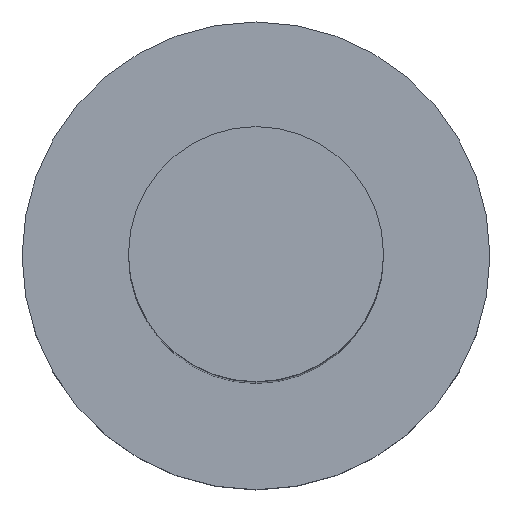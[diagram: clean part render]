
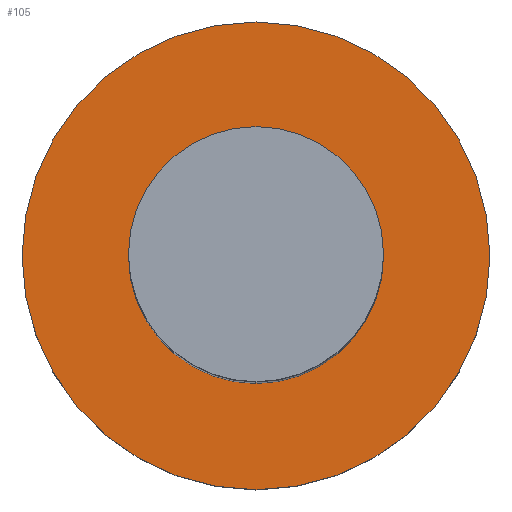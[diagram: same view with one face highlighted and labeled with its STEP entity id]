
A CAD part, top view. The second image highlights one B-rep face of the part: STEP entity #105.
In plain terms, the highlighted planar face has unit normal (0, 0, 1).
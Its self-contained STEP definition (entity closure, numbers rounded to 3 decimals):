
#21 = EDGE_CURVE('',#22,#22,#24,.T.);
#22 = VERTEX_POINT('',#23);
#23 = CARTESIAN_POINT('',(2.75,0.,1.5));
#24 = SURFACE_CURVE('',#25,(#30,#42),.PCURVE_S1.);
#25 = CIRCLE('',#26,2.75);
#26 = AXIS2_PLACEMENT_3D('',#27,#28,#29);
#27 = CARTESIAN_POINT('',(0.,0.,1.5));
#28 = DIRECTION('',(0.,0.,1.));
#29 = DIRECTION('',(1.,0.,-0.));
#30 = PCURVE('',#31,#36);
#31 = CYLINDRICAL_SURFACE('',#32,2.75);
#32 = AXIS2_PLACEMENT_3D('',#33,#34,#35);
#33 = CARTESIAN_POINT('',(0.,0.,0.));
#34 = DIRECTION('',(0.,0.,1.));
#35 = DIRECTION('',(1.,0.,-0.));
#36 = DEFINITIONAL_REPRESENTATION('',(#37),#41);
#37 = LINE('',#38,#39);
#38 = CARTESIAN_POINT('',(0.,1.5));
#39 = VECTOR('',#40,1.);
#40 = DIRECTION('',(1.,0.));
#41 = ( GEOMETRIC_REPRESENTATION_CONTEXT(2) 
PARAMETRIC_REPRESENTATION_CONTEXT() REPRESENTATION_CONTEXT('2D SPACE',''
  ) );
#42 = PCURVE('',#43,#48);
#43 = PLANE('',#44);
#44 = AXIS2_PLACEMENT_3D('',#45,#46,#47);
#45 = CARTESIAN_POINT('',(0.,0.,1.5));
#46 = DIRECTION('',(0.,0.,1.));
#47 = DIRECTION('',(1.,0.,-0.));
#48 = DEFINITIONAL_REPRESENTATION('',(#49),#53);
#49 = CIRCLE('',#50,2.75);
#50 = AXIS2_PLACEMENT_2D('',#51,#52);
#51 = CARTESIAN_POINT('',(0.,0.));
#52 = DIRECTION('',(1.,0.));
#53 = ( GEOMETRIC_REPRESENTATION_CONTEXT(2) 
PARAMETRIC_REPRESENTATION_CONTEXT() REPRESENTATION_CONTEXT('2D SPACE',''
  ) );
#105 = ADVANCED_FACE('',(#106,#109),#43,.T.);
#106 = FACE_BOUND('',#107,.T.);
#107 = EDGE_LOOP('',(#108));
#108 = ORIENTED_EDGE('',*,*,#21,.T.);
#109 = FACE_BOUND('',#110,.T.);
#110 = EDGE_LOOP('',(#111));
#111 = ORIENTED_EDGE('',*,*,#112,.F.);
#112 = EDGE_CURVE('',#113,#113,#115,.T.);
#113 = VERTEX_POINT('',#114);
#114 = CARTESIAN_POINT('',(1.5,0.,1.5));
#115 = SURFACE_CURVE('',#116,(#121,#128),.PCURVE_S1.);
#116 = CIRCLE('',#117,1.5);
#117 = AXIS2_PLACEMENT_3D('',#118,#119,#120);
#118 = CARTESIAN_POINT('',(0.,0.,1.5));
#119 = DIRECTION('',(0.,0.,1.));
#120 = DIRECTION('',(1.,0.,-0.));
#121 = PCURVE('',#43,#122);
#122 = DEFINITIONAL_REPRESENTATION('',(#123),#127);
#123 = CIRCLE('',#124,1.5);
#124 = AXIS2_PLACEMENT_2D('',#125,#126);
#125 = CARTESIAN_POINT('',(0.,0.));
#126 = DIRECTION('',(1.,0.));
#127 = ( GEOMETRIC_REPRESENTATION_CONTEXT(2) 
PARAMETRIC_REPRESENTATION_CONTEXT() REPRESENTATION_CONTEXT('2D SPACE',''
  ) );
#128 = PCURVE('',#129,#134);
#129 = CYLINDRICAL_SURFACE('',#130,1.5);
#130 = AXIS2_PLACEMENT_3D('',#131,#132,#133);
#131 = CARTESIAN_POINT('',(0.,0.,1.5));
#132 = DIRECTION('',(0.,0.,1.));
#133 = DIRECTION('',(1.,0.,-0.));
#134 = DEFINITIONAL_REPRESENTATION('',(#135),#139);
#135 = LINE('',#136,#137);
#136 = CARTESIAN_POINT('',(0.,0.));
#137 = VECTOR('',#138,1.);
#138 = DIRECTION('',(1.,0.));
#139 = ( GEOMETRIC_REPRESENTATION_CONTEXT(2) 
PARAMETRIC_REPRESENTATION_CONTEXT() REPRESENTATION_CONTEXT('2D SPACE',''
  ) );
